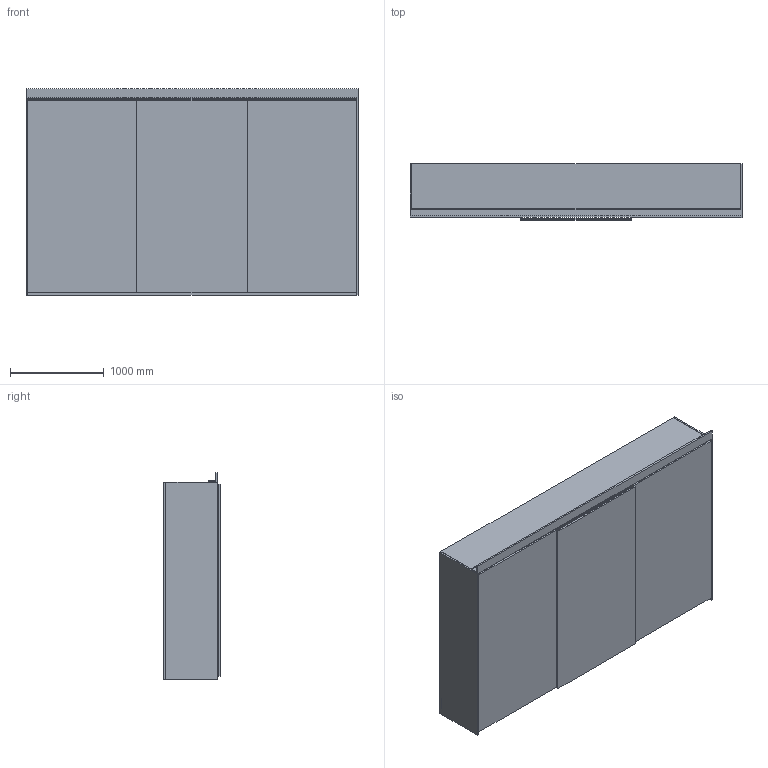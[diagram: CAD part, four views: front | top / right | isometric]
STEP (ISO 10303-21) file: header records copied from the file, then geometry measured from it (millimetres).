
FILE_DESCRIPTION(('STEP AP242'),'1');
FILE_NAME('OPO_51.047.52_volu_schn_3d.stp','2026-02-23T17:25:40',(' '),(' '),'Spatial InterOp 3D',' ',' ');
FILE_SCHEMA(('AP242_MANAGED_MODEL_BASED_3D_ENGINEERING_MIM_LF {1 0 10303 442 1 1 4}'));
Length unit declared in the file: millimetre
Products named in the file (1): 1
Bounding box: 3534 x 599 x 2202 mm (x, y, z)
Volume: 361025385.7 mm3; surface area: 50524294.6 mm2
Topology: 17 solids, 17 shells, 488 faces, 9354 edges, 16681 vertices
Faces by surface type: plane 332, cylinder 156
Entity records: 117335 total; most frequent: DIRECTION 11660, CARTESIAN_POINT 10644, STYLED_ITEM 8664, PRESENTATION_STYLE_ASSIGNMENT 8664, COLOUR_RGB 8664, COMPOSITE_CURVE 8176, CURVE_STYLE 8176, COMPOSITE_CURVE_SEGMENT 8176
